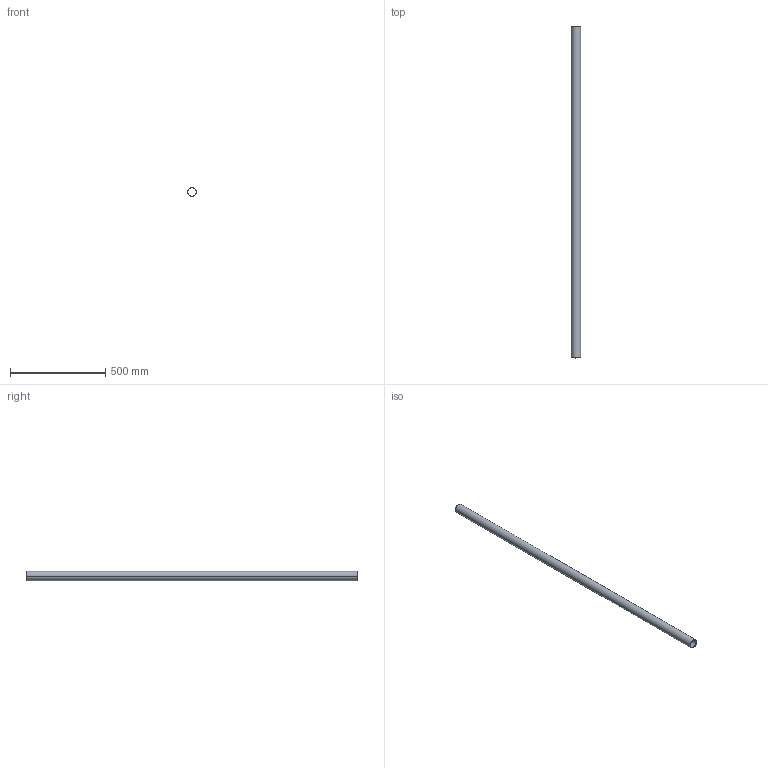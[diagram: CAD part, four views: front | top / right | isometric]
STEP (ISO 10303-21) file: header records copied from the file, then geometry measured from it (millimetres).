
FILE_DESCRIPTION (( 'STEP AP214' ), '1' );
FILE_NAME ('CCJ029-REP.317 - MAIN COURANTE PLATEFORME INFERIEURE B4-C4.STEP', '2024-01-31T10:02:06', ( '' ), ( '' ), 'SwSTEP 2.0', 'SolidWorks 2021', '' );
FILE_SCHEMA (( 'AUTOMOTIVE_DESIGN' ));
Length unit declared in the file: millimetre
Products named in the file (1): CCJ029-REP.317 - MAIN COURANTE PLATEFORME INFERIEURE B4-C4
Bounding box: 48.3 x 1743 x 48.3 mm (x, y, z)
Volume: 650634.1 mm3; surface area: 501234.3 mm2
Topology: 1 solids, 1 shells, 6 faces, 12 edges, 8 vertices
Faces by surface type: cylinder 4, plane 2
Entity records: 202 total; most frequent: DIRECTION 34, CARTESIAN_POINT 27, ORIENTED_EDGE 24, AXIS2_PLACEMENT_3D 15, EDGE_CURVE 12, VERTEX_POINT 8, EDGE_LOOP 8, CIRCLE 8
